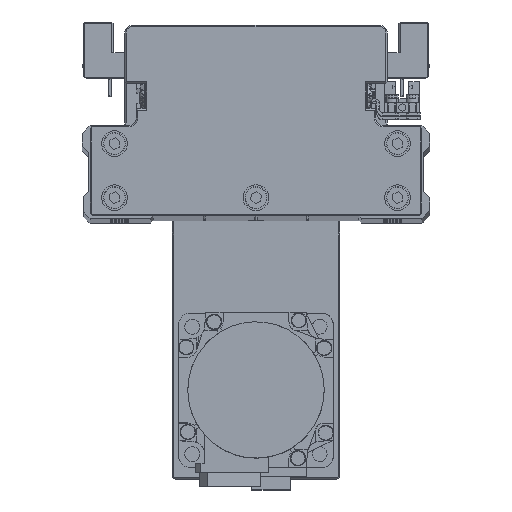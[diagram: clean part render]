
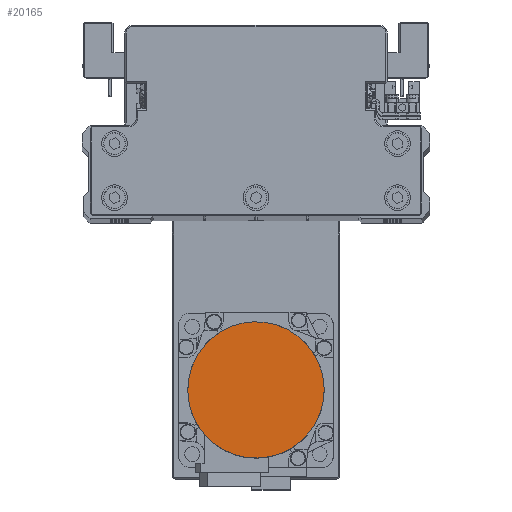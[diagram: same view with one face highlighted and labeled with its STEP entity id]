
A CAD part, top view. The second image highlights one B-rep face of the part: STEP entity #20165.
In plain terms, the highlighted planar face has unit normal (0, 0, 1) as drawn and (0, 0, -1) by its records, which use the part's own axes.
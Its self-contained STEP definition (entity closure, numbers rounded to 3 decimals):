
#1008 = EDGE_LOOP ( 'NONE', ( #6514, #7451 ) ) ;
#1830 = CARTESIAN_POINT ( 'NONE',  ( 13.28, 22.998, -109.7 ) ) ;
#2021 = CARTESIAN_POINT ( 'NONE',  ( -17.512, 19.965, -109.7 ) ) ;
#2861 = CARTESIAN_POINT ( 'NONE',  ( -23.819, -11.744, -109.7 ) ) ;
#3072 = CARTESIAN_POINT ( 'NONE',  ( 3.469, -26.329, -109.7 ) ) ;
#3245 = CARTESIAN_POINT ( 'NONE',  ( 26.329, -3.469, -109.7 ) ) ;
#4942 = CARTESIAN_POINT ( 'NONE',  ( 19.965, 17.512, -109.7 ) ) ;
#5129 = CARTESIAN_POINT ( 'NONE',  ( -11.744, 23.819, -109.7 ) ) ;
#5936 = CARTESIAN_POINT ( 'NONE',  ( -26.329, -3.469, -109.7 ) ) ;
#6174 = CARTESIAN_POINT ( 'NONE',  ( -3.469, -26.329, -109.7 ) ) ;
#6377 = CARTESIAN_POINT ( 'NONE',  ( 23.819, -11.744, -109.7 ) ) ;
#6514 = ORIENTED_EDGE ( 'NONE', *, *, #21676, .F. ) ;
#7451 = ORIENTED_EDGE ( 'NONE', *, *, #33996, .F. ) ;
#8051 = CARTESIAN_POINT ( 'NONE',  ( 23.819, 11.744, -109.7 ) ) ;
#8275 = CARTESIAN_POINT ( 'NONE',  ( -3.469, 26.329, -109.7 ) ) ;
#8450 = CARTESIAN_POINT ( 'NONE',  ( -26.329, 3.469, -109.7 ) ) ;
#9269 = CARTESIAN_POINT ( 'NONE',  ( -11.744, -23.819, -109.7 ) ) ;
#9498 = CARTESIAN_POINT ( 'NONE',  ( 19.965, -17.512, -109.7 ) ) ;
#10560 = DIRECTION ( 'NONE',  ( 0., 0., 1. ) ) ;
#11146 = CARTESIAN_POINT ( 'NONE',  ( 26.329, 3.469, -109.7 ) ) ;
#11352 = CARTESIAN_POINT ( 'NONE',  ( 3.469, 26.329, -109.7 ) ) ;
#11579 = CARTESIAN_POINT ( 'NONE',  ( -23.819, 11.744, -109.7 ) ) ;
#11684 = VERTEX_POINT ( 'NONE', #36055 ) ;
#12396 = CARTESIAN_POINT ( 'NONE',  ( -17.512, -19.965, -109.7 ) ) ;
#12578 = CARTESIAN_POINT ( 'NONE',  ( 13.28, -22.998, -109.7 ) ) ;
#13691 = FACE_OUTER_BOUND ( 'NONE', #1008, .T. ) ;
#14456 = CARTESIAN_POINT ( 'NONE',  ( 11.744, 23.819, -109.7 ) ) ;
#14672 = CARTESIAN_POINT ( 'NONE',  ( -19.965, 17.512, -109.7 ) ) ;
#15513 = CARTESIAN_POINT ( 'NONE',  ( -22.998, -13.28, -109.7 ) ) ;
#15702 = CARTESIAN_POINT ( 'NONE',  ( 6.871, -25.652, -109.7 ) ) ;
#15884 = CARTESIAN_POINT ( 'NONE',  ( 26.5, -1.734, -109.7 ) ) ;
#17598 = CARTESIAN_POINT ( 'NONE',  ( 17.512, 19.965, -109.7 ) ) ;
#17779 = CARTESIAN_POINT ( 'NONE',  ( -13.28, 22.998, -109.7 ) ) ;
#18595 = CARTESIAN_POINT ( 'NONE',  ( -25.652, -6.871, -109.7 ) ) ;
#18828 = CARTESIAN_POINT ( 'NONE',  ( -1.734, -26.5, -109.7 ) ) ;
#19020 = CARTESIAN_POINT ( 'NONE',  ( 25.147, -8.539, -109.7 ) ) ;
#20165 = ADVANCED_FACE ( 'NONE', ( #13691 ), #26299, .F. ) ;
#20694 = CARTESIAN_POINT ( 'NONE',  ( 22.998, 13.28, -109.7 ) ) ;
#20867 = VERTEX_POINT ( 'NONE', #28291 ) ;
#20897 = CARTESIAN_POINT ( 'NONE',  ( -6.871, 25.652, -109.7 ) ) ;
#21076 = CARTESIAN_POINT ( 'NONE',  ( -26.5, 1.734, -109.7 ) ) ;
#21676 = EDGE_CURVE ( 'NONE', #11684, #20867, #31225, .T. ) ;
#21701 = CARTESIAN_POINT ( 'NONE',  ( -26.5, 0., -109.7 ) ) ;
#21898 = CARTESIAN_POINT ( 'NONE',  ( -8.539, -25.147, -109.7 ) ) ;
#22129 = CARTESIAN_POINT ( 'NONE',  ( 21.07, -16.165, -109.7 ) ) ;
#23187 = DIRECTION ( 'NONE',  ( 1., 0., 0. ) ) ;
#23754 = CARTESIAN_POINT ( 'NONE',  ( 25.652, 6.871, -109.7 ) ) ;
#23978 = CARTESIAN_POINT ( 'NONE',  ( 1.734, 26.5, -109.7 ) ) ;
#24189 = CARTESIAN_POINT ( 'NONE',  ( -25.147, 8.539, -109.7 ) ) ;
#25000 = CARTESIAN_POINT ( 'NONE',  ( -16.165, -21.07, -109.7 ) ) ;
#25195 = CARTESIAN_POINT ( 'NONE',  ( 16.165, -21.07, -109.7 ) ) ;
#26299 = PLANE ( 'NONE',  #35354 ) ;
#26884 = CARTESIAN_POINT ( 'NONE',  ( 26.5, 0., -109.7 ) ) ;
#27062 = CARTESIAN_POINT ( 'NONE',  ( 8.539, 25.147, -109.7 ) ) ;
#27291 = CARTESIAN_POINT ( 'NONE',  ( -21.07, 16.165, -109.7 ) ) ;
#28122 = CARTESIAN_POINT ( 'NONE',  ( -21.07, -16.165, -109.7 ) ) ;
#28291 = CARTESIAN_POINT ( 'NONE',  ( -26.5, 0., -109.7 ) ) ;
#28302 = CARTESIAN_POINT ( 'NONE',  ( 8.539, -25.147, -109.7 ) ) ;
#28500 = CARTESIAN_POINT ( 'NONE',  ( 26.5, 0., -109.7 ) ) ;
#30188 = CARTESIAN_POINT ( 'NONE',  ( 16.165, 21.07, -109.7 ) ) ;
#30372 = CARTESIAN_POINT ( 'NONE',  ( -16.165, 21.07, -109.7 ) ) ;
#31214 = CARTESIAN_POINT ( 'NONE',  ( -25.147, -8.539, -109.7 ) ) ;
#31225 = B_SPLINE_CURVE_WITH_KNOTS ( 'NONE', 3,
 ( #26884, #39507, #11146, #23754, #36367, #8051, #20694, #33302, #4942, #17598, #30188, #1830, #14456, #27062, #39694, #11352, #23978, #36606, #8275, #20897, #33492, #5129, #17779, #30372, #2021, #14672, #27291, #39930, #11579, #24189, #36793, #8450, #21076, #33674 ),
 .UNSPECIFIED., .F., .F.,
 ( 4, 2, 2, 2, 2, 2, 2, 2, 2, 2, 2, 2, 2, 2, 2, 2, 4 ),
 ( 0., 0.062, 0.125, 0.187, 0.25, 0.312, 0.375, 0.437, 0.5, 0.562, 0.625, 0.687, 0.75, 0.813, 0.875, 0.938, 1. ),
 .UNSPECIFIED. ) ;
#31437 = CARTESIAN_POINT ( 'NONE',  ( 1.734, -26.5, -109.7 ) ) ;
#31616 = CARTESIAN_POINT ( 'NONE',  ( 25.652, -6.871, -109.7 ) ) ;
#33302 = CARTESIAN_POINT ( 'NONE',  ( 21.07, 16.165, -109.7 ) ) ;
#33492 = CARTESIAN_POINT ( 'NONE',  ( -8.539, 25.147, -109.7 ) ) ;
#33674 = CARTESIAN_POINT ( 'NONE',  ( -26.5, 0., -109.7 ) ) ;
#33996 = EDGE_CURVE ( 'NONE', #20867, #11684, #35589, .T. ) ;
#34288 = CARTESIAN_POINT ( 'NONE',  ( -26.5, -1.734, -109.7 ) ) ;
#34508 = CARTESIAN_POINT ( 'NONE',  ( -6.871, -25.652, -109.7 ) ) ;
#34719 = CARTESIAN_POINT ( 'NONE',  ( 22.998, -13.28, -109.7 ) ) ;
#35354 = AXIS2_PLACEMENT_3D ( 'NONE', #38900, #10560, #23187 ) ;
#35589 = B_SPLINE_CURVE_WITH_KNOTS ( 'NONE', 3,
 ( #21701, #34288, #5936, #18595, #31214, #2861, #15513, #28122, #40762, #12396, #25000, #37599, #9269, #21898, #34508, #6174, #18828, #31437, #3072, #15702, #28302, #40937, #12578, #25195, #37819, #9498, #22129, #34719, #6377, #19020, #31616, #3245, #15884, #28500 ),
 .UNSPECIFIED., .F., .F.,
 ( 4, 2, 2, 2, 2, 2, 2, 2, 2, 2, 2, 2, 2, 2, 2, 2, 4 ),
 ( 0., 0.063, 0.125, 0.188, 0.25, 0.312, 0.375, 0.437, 0.5, 0.562, 0.625, 0.687, 0.75, 0.813, 0.875, 0.938, 1. ),
 .UNSPECIFIED. ) ;
#36055 = CARTESIAN_POINT ( 'NONE',  ( 26.5, 0., -109.7 ) ) ;
#36367 = CARTESIAN_POINT ( 'NONE',  ( 25.147, 8.539, -109.7 ) ) ;
#36606 = CARTESIAN_POINT ( 'NONE',  ( -1.734, 26.5, -109.7 ) ) ;
#36793 = CARTESIAN_POINT ( 'NONE',  ( -25.652, 6.871, -109.7 ) ) ;
#37599 = CARTESIAN_POINT ( 'NONE',  ( -13.28, -22.998, -109.7 ) ) ;
#37819 = CARTESIAN_POINT ( 'NONE',  ( 17.512, -19.965, -109.7 ) ) ;
#38900 = CARTESIAN_POINT ( 'NONE',  ( 0., 0., -109.7 ) ) ;
#39507 = CARTESIAN_POINT ( 'NONE',  ( 26.5, 1.734, -109.7 ) ) ;
#39694 = CARTESIAN_POINT ( 'NONE',  ( 6.871, 25.652, -109.7 ) ) ;
#39930 = CARTESIAN_POINT ( 'NONE',  ( -22.998, 13.28, -109.7 ) ) ;
#40762 = CARTESIAN_POINT ( 'NONE',  ( -19.965, -17.512, -109.7 ) ) ;
#40937 = CARTESIAN_POINT ( 'NONE',  ( 11.744, -23.819, -109.7 ) ) ;
